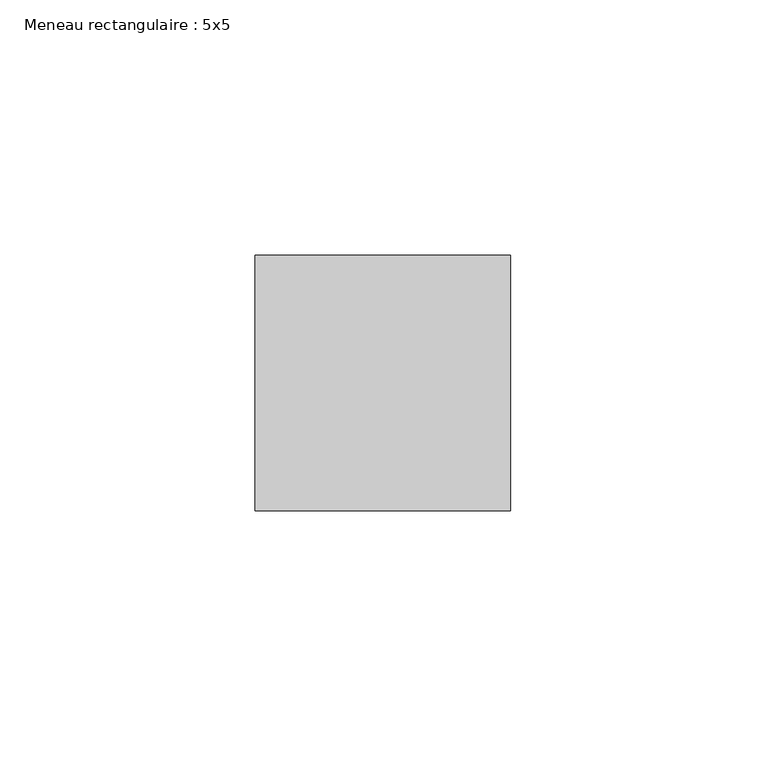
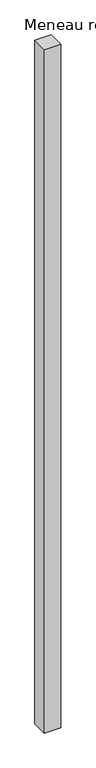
"""IFC4 building model written with IfcOpenShell, lengths in millimetres: member geometry, Meneau rectangulaire : 5x5."""

from ifc_helpers import new_model, si_unit, frame, origin, place, context, project, spatial, polyline, outline, extrude, source, transform, mapped, element, save


def meneau_rectangulaire_5x5_78a7c584(model_context):
    return source(origin(), model_context, "Body", "SweptSolid", [
        extrude(outline(polyline([(0.0, 25.0), (0.0, -25.0), (-50.0, -25.0), (-50.0, 25.0), (0.0, 25.0)])), frame((0.0, 0.0, -2200.0), z_axis=(0.0, 0.0, 1.0), x_axis=(1.0, 0.0, 0.0)), (0.0, 0.0, 1.0), 2200.0),
    ])


if __name__ == "__main__":
    model = new_model("IFC4")
    model_context = context("Model", 3, world=origin())
    ifc_project = project(units=[si_unit("LENGTHUNIT", "METRE", prefix="MILLI")], contexts=[model_context])
    site = spatial("IfcSite", under=ifc_project)
    building = spatial("IfcBuilding", under=site)
    placement = place(None, origin())
    meneau_rectangulaire_5x5_shape = meneau_rectangulaire_5x5_78a7c584(model_context)
    element("IfcMember", 1, ObjectType="Meneau rectangulaire : 5x5", at=placement, inside=building, context=model_context, shape_type="MappedRepresentation", body=[
        mapped(meneau_rectangulaire_5x5_shape, transform((0.0, 0.0, 0.0), x_axis=(1.0, 0.0, 0.0), y_axis=(0.0, 1.0, 0.0), z_axis=(0.0, 0.0, 1.0))),
    ])
    save(model, "model.ifc")
